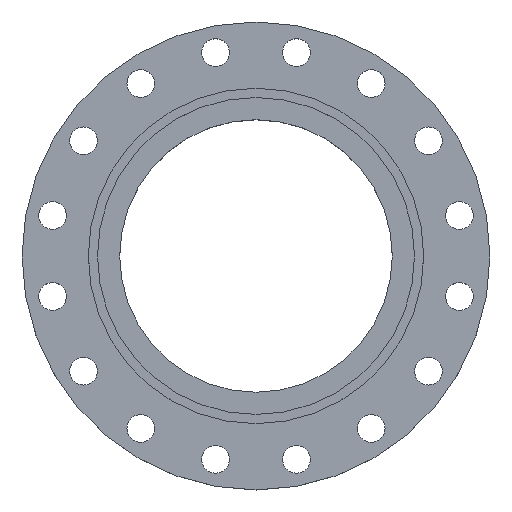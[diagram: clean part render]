
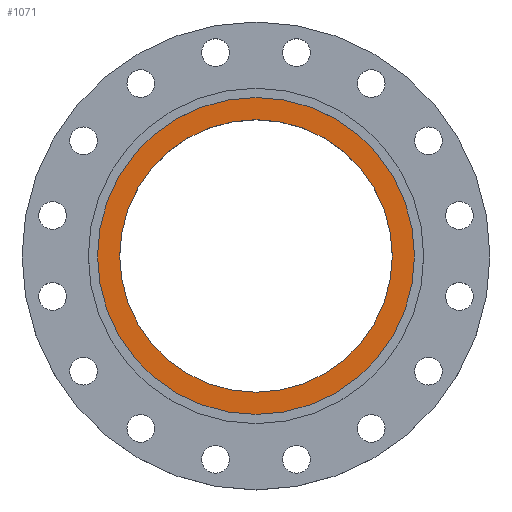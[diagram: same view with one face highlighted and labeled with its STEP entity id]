
A CAD part, top view. The second image highlights one B-rep face of the part: STEP entity #1071.
In plain terms, the highlighted planar face has unit normal (0, 0, 1).
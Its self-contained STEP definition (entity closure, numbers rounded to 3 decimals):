
#17 = CARTESIAN_POINT ( 'NONE',  ( -192.2, 0., -5.5 ) ) ;
#66 = DIRECTION ( 'NONE',  ( 1., 0., 0. ) ) ;
#67 = DIRECTION ( 'NONE',  ( 0., 0., 1. ) ) ;
#68 = CARTESIAN_POINT ( 'NONE',  ( 223.5, 0., -5.5 ) ) ;
#70 = PLANE ( 'NONE',  #1545 ) ;
#71 = FACE_OUTER_BOUND ( 'NONE', #808, .T. ) ;
#72 = FACE_BOUND ( 'NONE', #923, .T. ) ;
#119 = CARTESIAN_POINT ( 'NONE',  ( 223.5, 0., -5.5 ) ) ;
#163 = EDGE_CURVE ( 'NONE', #1300, #1024, #769, .T. ) ;
#212 = DIRECTION ( 'NONE',  ( -1., 0., 0. ) ) ;
#214 = DIRECTION ( 'NONE',  ( 0., 0., -1. ) ) ;
#215 = CARTESIAN_POINT ( 'NONE',  ( 0., 0., -5.5 ) ) ;
#229 = CARTESIAN_POINT ( 'NONE',  ( 192.2, 0., -5.5 ) ) ;
#266 = DIRECTION ( 'NONE',  ( 1., 0., 0. ) ) ;
#267 = DIRECTION ( 'NONE',  ( 0., 0., -1. ) ) ;
#268 = CARTESIAN_POINT ( 'NONE',  ( 0., 0., -5.5 ) ) ;
#399 = DIRECTION ( 'NONE',  ( 1., 0., 0. ) ) ;
#400 = DIRECTION ( 'NONE',  ( 0., 0., -1. ) ) ;
#401 = CARTESIAN_POINT ( 'NONE',  ( 0., 0., -5.5 ) ) ;
#477 = AXIS2_PLACEMENT_3D ( 'NONE', #629, #628, #626 ) ;
#576 = ORIENTED_EDGE ( 'NONE', *, *, #850, .F. ) ;
#613 = EDGE_CURVE ( 'NONE', #1138, #837, #1768, .T. ) ;
#626 = DIRECTION ( 'NONE',  ( -1., 0., 0. ) ) ;
#628 = DIRECTION ( 'NONE',  ( 0., 0., -1. ) ) ;
#629 = CARTESIAN_POINT ( 'NONE',  ( 0., 0., -5.5 ) ) ;
#769 = CIRCLE ( 'NONE', #477, 223.5 ) ;
#779 = EDGE_CURVE ( 'NONE', #837, #1138, #1665, .T. ) ;
#808 = EDGE_LOOP ( 'NONE', ( #840, #576 ) ) ;
#837 = VERTEX_POINT ( 'NONE', #229 ) ;
#840 = ORIENTED_EDGE ( 'NONE', *, *, #163, .F. ) ;
#850 = EDGE_CURVE ( 'NONE', #1024, #1300, #1628, .T. ) ;
#923 = EDGE_LOOP ( 'NONE', ( #1520, #1484 ) ) ;
#1024 = VERTEX_POINT ( 'NONE', #119 ) ;
#1071 = ADVANCED_FACE ( 'NONE', ( #72, #71 ), #70, .T. ) ;
#1138 = VERTEX_POINT ( 'NONE', #17 ) ;
#1300 = VERTEX_POINT ( 'NONE', #1474 ) ;
#1474 = CARTESIAN_POINT ( 'NONE',  ( -223.5, 0., -5.5 ) ) ;
#1484 = ORIENTED_EDGE ( 'NONE', *, *, #779, .T. ) ;
#1520 = ORIENTED_EDGE ( 'NONE', *, *, #613, .T. ) ;
#1545 = AXIS2_PLACEMENT_3D ( 'NONE', #68, #67, #66 ) ;
#1617 = AXIS2_PLACEMENT_3D ( 'NONE', #215, #214, #212 ) ;
#1628 = CIRCLE ( 'NONE', #1617, 223.5 ) ;
#1659 = AXIS2_PLACEMENT_3D ( 'NONE', #268, #267, #266 ) ;
#1665 = CIRCLE ( 'NONE', #1659, 192.2 ) ;
#1764 = AXIS2_PLACEMENT_3D ( 'NONE', #401, #400, #399 ) ;
#1768 = CIRCLE ( 'NONE', #1764, 192.2 ) ;
